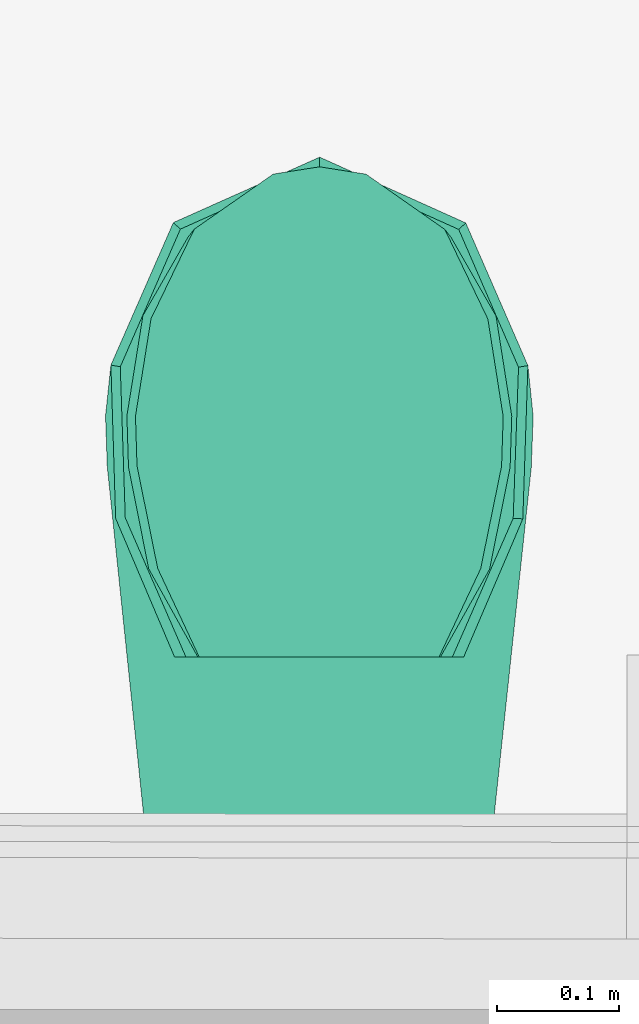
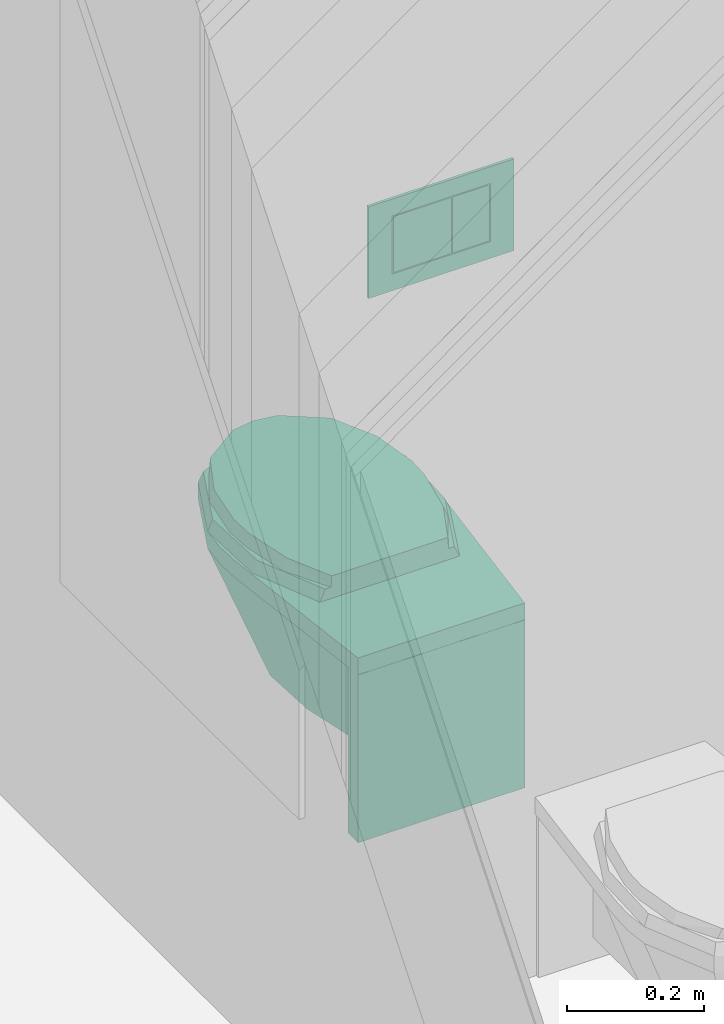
# One storey, part 245 of 301: 1 flow terminal.
"""IFC2X3 building model written with IfcOpenShell, lengths in millimetres."""

from ifc_helpers import new_model, entity, si_unit, converted_unit, derived_unit, money_unit, direction, frame, origin_with_axes, place, context, subcontext, project, spatial, faceted_brep, source, transform, mapped, type_object, element, save


model = new_model("IFC2X3")

# Units and contexts
model_context = context("Model", 3, precision=0.01, world=origin_with_axes(), true_north=direction((0.0, 1.0)))
body_context = subcontext(model_context, "Body", "Model", "MODEL_VIEW")
ifc_project = project(units=[si_unit("LENGTHUNIT", "METRE", prefix="MILLI"), si_unit("AREAUNIT", "SQUARE_METRE"), si_unit("VOLUMEUNIT", "CUBIC_METRE"), converted_unit("PLANEANGLEUNIT", "DEGREE", entity("IfcPlaneAngleMeasure", 0.0174532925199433), si_unit("PLANEANGLEUNIT", "RADIAN"), dimensions=[0, 0, 0, 0, 0, 0, 0]), money_unit("EUR"), converted_unit("TIMEUNIT", "Year", entity("IfcTimeMeasure", 31557600.0), si_unit("TIMEUNIT", "SECOND"), dimensions=[0, 0, 1, 0, 0, 0, 0]), si_unit("MASSUNIT", "GRAM", prefix="KILO"), si_unit("THERMODYNAMICTEMPERATUREUNIT", "DEGREE_CELSIUS"), si_unit("LUMINOUSINTENSITYUNIT", "LUMEN"), si_unit("ENERGYUNIT", "JOULE", prefix="MEGA"), derived_unit("THERMALCONDUCTANCEUNIT", [(si_unit("POWERUNIT", "WATT"), 1), (si_unit("LENGTHUNIT", "METRE"), -1), (si_unit("THERMODYNAMICTEMPERATUREUNIT", "KELVIN"), -1)]), derived_unit("SPECIFICHEATCAPACITYUNIT", [(si_unit("ENERGYUNIT", "JOULE"), 1), (si_unit("MASSUNIT", "GRAM", prefix="KILO"), -1), (si_unit("THERMODYNAMICTEMPERATUREUNIT", "KELVIN"), -1)]), derived_unit("MASSDENSITYUNIT", [(si_unit("MASSUNIT", "GRAM", prefix="KILO"), 1), (si_unit("VOLUMEUNIT", "CUBIC_METRE"), -1)])], contexts=[model_context])

# Site, building, storey
site_placement = place(None, frame((0.0, 0.0, 8650.0), z_axis=(0.0, 0.0, 1.0), x_axis=(1.0, 0.0, 0.0)))
site = spatial("IfcSite", under=ifc_project, at=site_placement, Name="43301:001:0844", CompositionType="ELEMENT")
building_placement = place(site_placement, origin_with_axes())
building = spatial("IfcBuilding", under=site, at=building_placement, Name="Kuressaare Ametikooli tuulikute mehaanikute õppekorpus", CompositionType="ELEMENT")
storey_placement = place(building_placement, origin_with_axes())
storey = spatial("IfcBuildingStorey", under=building, at=storey_placement, Name="1.korrus", CompositionType="ELEMENT", Elevation=0.0)

# Flow terminal
sanitary_terminal_type = type_object("IfcSanitaryTerminalType", Name="WC 27", PredefinedType="NOTDEFINED")
shared_shape = source(origin_with_axes(), body_context, "Body", "Brep", [
    faceted_brep([(-141.0283315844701, -29.31865370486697, 69.99999999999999), (-141.0283315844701, 0.4949050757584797, 69.99999999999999), (141.0283315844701, 0.4949050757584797, 69.99999999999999), (141.0283315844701, -29.31865370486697, 69.99999999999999), (-141.0283315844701, -29.31865370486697, 370.0), (-141.0283315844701, 0.4949050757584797, 370.0), (141.0283315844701, 0.4949050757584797, 370.0), (141.0283315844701, -29.31865370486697, 370.0)], [[[0, 1, 2, 3]], [[0, 4, 5, 1]], [[1, 5, 6, 2]], [[2, 6, 7, 3]], [[3, 7, 4, 0]], [[7, 6, 5, 4]]]),
    faceted_brep([(-101.7881776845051, -122.4661491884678, 370.0), (-164.8111927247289, -257.2969749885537, 370.0), (-170.4738719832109, -389.7973742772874, 370.0), (-119.554809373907, -506.3435444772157, 370.0), (0.0, -560.0, 370.0), (119.554809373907, -506.3435444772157, 370.0), (170.4738719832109, -389.7973742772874, 370.0), (164.8111927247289, -257.295981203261, 370.0), (101.7881776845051, -122.4661491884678, 370.0), (48.96817068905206, -87.43521908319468, 370.0), (48.96817068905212, -29.31865370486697, 370.0), (-48.96817068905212, -29.31865370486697, 370.0), (-48.96817068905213, -87.43521908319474, 370.0), (-63.65862189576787, -201.5126978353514, 370.0), (0.0, -179.8771255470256, 370.0), (63.65862189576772, -201.5126978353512, 370.0), (110.2599674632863, -260.6221805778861, 370.0), (127.3172437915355, -341.3672356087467, 370.0), (110.2599674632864, -422.1122906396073, 370.0), (63.65862189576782, -481.2217733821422, 370.0), (0.0, -502.8573456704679, 370.0), (-63.65862189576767, -481.2217733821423, 370.0), (-110.2599674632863, -422.1122906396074, 370.0), (-127.3172437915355, -341.3672356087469, 370.0), (-110.2599674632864, -260.6221805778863, 370.0), (-70.97348723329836, -270.8651255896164, 120.0), (-74.94382651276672, -372.4786779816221, 120.0), (-47.75865687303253, -440.0938417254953, 120.0), (0.0, -461.5278029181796, 120.0), (47.75865687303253, -440.0938417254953, 120.0), (74.94382651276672, -372.4786779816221, 120.0), (70.97348723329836, -270.8651255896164, 120.0), (48.96817068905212, -141.8100147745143, 135.0708656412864), (48.96817068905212, -132.9294031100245, 150.8349994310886), (48.96817068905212, -111.9632571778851, 220.0911688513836), (48.96817068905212, -168.852251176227, 120.0), (48.96817068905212, -29.31865370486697, 120.0), (-48.96817068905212, -29.31865370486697, 120.0), (-48.96817068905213, -168.852251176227, 120.0), (-48.96817068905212, -132.9294031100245, 150.8349994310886), (-24.48408534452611, -287.5770287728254, 170.0), (0.0, -279.2556548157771, 170.0), (24.48408534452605, -287.5770287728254, 170.0), (42.40767979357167, -310.3114452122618, 170.0), (48.96817068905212, -341.3672356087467, 170.0), (42.40767979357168, -372.4230260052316, 170.0), (24.48408534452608, -395.1574424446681, 170.0), (0.0, -403.4788164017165, 170.0), (-24.48408534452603, -395.1574424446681, 170.0), (-42.40767979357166, -372.4230260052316, 170.0), (-48.96817068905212, -341.3672356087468, 170.0), (-42.4076797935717, -310.311445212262, 170.0)], [[[0, 1, 2, 3, 4, 5, 6, 7, 8, 9, 10, 11, 12], [13, 14, 15, 16, 17, 18, 19, 20, 21, 22, 23, 24]], [[0, 25, 1]], [[1, 26, 2]], [[2, 27, 3]], [[3, 28, 4]], [[4, 29, 5]], [[5, 30, 6]], [[6, 31, 7]], [[8, 7, 32, 33]], [[8, 34, 9]], [[33, 32, 35, 36, 10, 9, 34]], [[10, 36, 37, 11]], [[12, 11, 37, 38, 39]], [[0, 12, 39]], [[13, 40, 41, 14]], [[14, 41, 42, 15]], [[15, 42, 43, 16]], [[16, 43, 44, 17]], [[17, 44, 45, 18]], [[18, 45, 46, 19]], [[19, 46, 47, 20]], [[20, 47, 48, 21]], [[21, 48, 49, 22]], [[22, 49, 50, 23]], [[23, 50, 51, 24]], [[24, 51, 40, 13]], [[25, 0, 39, 38]], [[25, 26, 1]], [[26, 27, 2]], [[27, 28, 3]], [[28, 29, 4]], [[29, 30, 5]], [[30, 31, 6]], [[7, 31, 35, 32]], [[8, 33, 34]], [[31, 30, 29, 28, 27, 26, 25, 38, 37, 36, 35]], [[40, 51, 50, 49, 48, 47, 46, 45, 44, 43, 42, 41]]]),
    faceted_brep([(174.8222455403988, -348.2949128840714, 370.0), (170.4738719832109, -389.7973742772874, 370.0), (119.554809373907, -506.3435444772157, 370.0), (0.0, -560.0, 370.0), (-119.554809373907, -506.3435444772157, 370.0), (-170.4738719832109, -389.7973742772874, 370.0), (-174.8222455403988, -348.2949128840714, 370.0), (-173.3473242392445, -306.5847503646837, 370.0), (-140.975445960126, 0.0, 370.0), (140.9734872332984, 0.0, 370.0), (173.3473242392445, -306.5847503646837, 370.0), (-83.6883665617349, -472.7512164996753, 370.0), (0.0, -510.3107353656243, 370.0), (83.6883665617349, -472.7512164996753, 370.0), (119.3317103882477, -391.1688973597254, 370.0), (122.3755718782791, -362.1171743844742, 370.0), (121.3431269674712, -332.9200606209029, 370.0), (98.68144106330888, -201.7886999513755, 370.0), (-98.68281217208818, -201.7886999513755, 370.0), (-121.3431269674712, -332.9200606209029, 370.0), (-122.3755718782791, -362.1171743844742, 370.0), (-119.3317103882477, -391.1688973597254, 370.0), (174.8222455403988, -348.2949128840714, 400.0), (170.4738719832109, -389.7973742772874, 400.0), (119.554809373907, -506.3435444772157, 400.0), (0.0, -560.0, 400.0), (-119.554809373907, -506.3435444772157, 400.0), (-170.4738719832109, -389.7973742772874, 400.0), (-174.8222455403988, -348.2949128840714, 400.0), (-173.3473242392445, -306.5847503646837, 400.0), (-140.975445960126, 0.0, 400.0), (140.9734872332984, 0.0, 400.0), (173.3473242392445, -306.5847503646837, 400.0), (0.0, -510.3107353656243, 400.0), (-83.6883665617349, -472.7512164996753, 400.0), (83.6883665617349, -472.7512164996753, 400.0), (119.3317103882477, -391.1688973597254, 400.0), (122.3755718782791, -362.1171743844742, 400.0), (121.3431269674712, -332.9200606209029, 400.0), (98.68144106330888, -201.7886999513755, 400.0), (-98.68281217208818, -201.7886999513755, 400.0), (-121.3431269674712, -332.9200606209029, 400.0), (-122.3755718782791, -362.1171743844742, 400.0), (-119.3317103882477, -391.1688973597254, 400.0)], [[[0, 1, 2, 3, 4, 5, 6, 7, 8, 9, 10], [11, 12, 13, 14, 15, 16, 17, 18, 19, 20, 21]], [[22, 23, 1, 0]], [[23, 24, 2, 1]], [[24, 25, 3, 2]], [[25, 26, 4, 3]], [[26, 27, 5, 4]], [[27, 28, 6, 5]], [[28, 29, 7, 6]], [[29, 30, 8, 7]], [[30, 31, 9, 8]], [[31, 32, 10, 9]], [[32, 22, 0, 10]], [[33, 12, 11, 34]], [[35, 13, 12, 33]], [[36, 14, 13, 35]], [[37, 15, 14, 36]], [[38, 16, 15, 37]], [[39, 17, 16, 38]], [[40, 18, 17, 39]], [[41, 19, 18, 40]], [[42, 20, 19, 41]], [[43, 21, 20, 42]], [[34, 11, 21, 43]], [[31, 30, 29, 28, 27, 26, 25, 24, 23, 22, 32], [40, 39, 38, 37, 36, 35, 33, 34, 43, 42, 41]]]),
    faceted_brep([(-170.4738719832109, -389.7973742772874, 400.0), (-166.4663168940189, -264.4263906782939, 400.0), (-118.2121021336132, -151.3163525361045, 400.0), (118.2121021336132, -151.3163525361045, 400.0), (166.4663168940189, -264.4263906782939, 400.0), (170.4738719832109, -389.7973742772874, 400.0), (119.554809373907, -506.3435444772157, 400.0), (0.0, -560.0, 400.0), (-119.554809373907, -506.3435444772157, 400.0), (-87.07689659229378, -411.9963613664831, 400.0), (-76.4888004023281, -438.0775703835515, 400.0), (-62.06856874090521, -459.4262123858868, 400.0), (-44.26109835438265, -474.4067566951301, 400.0), (-23.02579943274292, -483.9023013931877, 400.0), (0.0, -487.1544663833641, 400.0), (23.02579943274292, -483.9023013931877, 400.0), (44.26109835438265, -474.4067566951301, 400.0), (62.06856874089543, -459.4262123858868, 400.0), (76.4888004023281, -438.0775703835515, 400.0), (87.07689659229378, -411.9963613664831, 400.0), (94.51085540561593, -382.2763031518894, 400.0), (97.71606496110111, -351.7983255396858, 400.0), (96.61425296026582, -320.7429308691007, 400.0), (90.99294096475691, -286.7942733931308, 400.0), (81.3289539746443, -253.3384220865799, 400.0), (68.75412876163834, -223.4663237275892, 400.0), (-68.75448552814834, -223.4663237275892, 400.0), (-81.32886310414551, -253.3381075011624, 400.0), (-90.99294096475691, -286.7942733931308, 400.0), (-96.61425296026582, -320.7429308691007, 400.0), (-97.71606496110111, -351.7983255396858, 400.0), (-94.51085540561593, -382.2763031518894, 400.0), (-158.5902763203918, -264.9332211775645, 420.0000000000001), (-108.940468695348, -151.3163525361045, 420.0000000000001), (108.940468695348, -151.3163525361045, 420.0000000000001), (158.5902763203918, -264.9332211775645, 420.0000000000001), (162.8034977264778, -388.4070686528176, 420.0000000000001), (113.7912556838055, -501.0248055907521, 420.0000000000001), (0.0, -552.0944379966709, 420.0000000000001), (-113.7912556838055, -501.0248055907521, 420.0000000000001), (-162.8034977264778, -388.4070686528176, 420.0000000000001), (-76.4888004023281, -438.0775703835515, 420.0000000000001), (-87.07689659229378, -411.9963613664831, 420.0000000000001), (-62.06856874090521, -459.4262123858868, 420.0000000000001), (-44.26109835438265, -474.4067566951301, 420.0000000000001), (-23.02579943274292, -483.9023013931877, 420.0000000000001), (0.0, -487.1544663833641, 420.0000000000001), (23.02579943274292, -483.9023013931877, 420.0000000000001), (44.26109835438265, -474.4067566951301, 420.0000000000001), (62.06856874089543, -459.4262123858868, 420.0000000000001), (76.4888004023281, -438.0775703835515, 420.0000000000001), (87.07689659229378, -411.9963613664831, 420.0000000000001), (94.51085540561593, -382.2763031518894, 420.0000000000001), (97.71606496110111, -351.7983255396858, 420.0000000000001), (96.61425296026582, -320.7429308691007, 420.0000000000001), (90.99294096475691, -286.7942733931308, 420.0000000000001), (81.3289539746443, -253.3384220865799, 420.0000000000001), (68.75412876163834, -223.4663237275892, 420.0000000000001), (-68.75448552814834, -223.4663237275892, 420.0000000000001), (-81.32886310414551, -253.3381075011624, 420.0000000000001), (-90.99294096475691, -286.7942733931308, 420.0000000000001), (-96.61425296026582, -320.7429308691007, 420.0000000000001), (-97.71606496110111, -351.7983255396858, 420.0000000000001), (-94.51085540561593, -382.2763031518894, 420.0000000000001)], [[[0, 1, 2, 3, 4, 5, 6, 7, 8], [9, 10, 11, 12, 13, 14, 15, 16, 17, 18, 19, 20, 21, 22, 23, 24, 25, 26, 27, 28, 29, 30, 31]], [[0, 32, 1]], [[1, 33, 2]], [[3, 2, 33, 34]], [[3, 35, 4]], [[4, 36, 5]], [[5, 37, 6]], [[6, 38, 7]], [[7, 39, 8]], [[8, 40, 0]], [[41, 10, 9, 42]], [[43, 11, 10, 41]], [[44, 12, 11, 43]], [[45, 13, 12, 44]], [[46, 14, 13, 45]], [[47, 15, 14, 46]], [[48, 16, 15, 47]], [[49, 17, 16, 48]], [[50, 18, 17, 49]], [[51, 19, 18, 50]], [[52, 20, 19, 51]], [[53, 21, 20, 52]], [[54, 22, 21, 53]], [[55, 23, 22, 54]], [[56, 24, 23, 55]], [[57, 25, 24, 56]], [[58, 26, 25, 57]], [[59, 27, 26, 58]], [[60, 28, 27, 59]], [[61, 29, 28, 60]], [[62, 30, 29, 61]], [[63, 31, 30, 62]], [[42, 9, 31, 63]], [[0, 40, 32]], [[1, 32, 33]], [[34, 33, 32, 40, 39, 38, 37, 36, 35], [60, 59, 58, 57, 56, 55, 54, 53, 52, 51, 50, 49, 48, 47, 46, 45, 44, 43, 41, 42, 63, 62, 61]], [[3, 34, 35]], [[4, 35, 36]], [[5, 36, 37]], [[6, 37, 38]], [[7, 38, 39]], [[8, 39, 40]]]),
    faceted_brep([(107.5993284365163, -494.4181209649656, 420.0000000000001), (37.93662119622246, -546.1188070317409, 440.0000000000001), (39.85813221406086, -538.8154789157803, 420.0000000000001), (102.412130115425, -501.0248055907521, 440.0000000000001), (0.0, -552.0944379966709, 440.0000000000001), (0.0, -545.0932206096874, 420.0000000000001), (-39.85813221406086, -538.8154789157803, 420.0000000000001), (-107.5993284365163, -494.4181209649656, 420.0000000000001), (-144.3513116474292, -430.2603362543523, 420.0000000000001), (-157.3400209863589, -348.2949128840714, 420.0000000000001), (-156.01259181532, -306.5847503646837, 420.0000000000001), (-139.3844700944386, -223.3443004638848, 420.0000000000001), (-99.17339219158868, -151.3163525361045, 420.0000000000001), (99.17339219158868, -151.3163525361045, 420.0000000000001), (139.3844700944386, -223.3443004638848, 420.0000000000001), (156.01259181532, -306.5847503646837, 420.0000000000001), (157.3400209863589, -348.2949128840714, 420.0000000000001), (144.3504302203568, -430.2603362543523, 420.0000000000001), (137.6912486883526, -427.7848170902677, 440.0000000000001), (150.3317943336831, -348.0176467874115, 440.0000000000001), (149.0405036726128, -307.4274802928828, 440.0000000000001), (132.0192654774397, -223.5758524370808, 440.0000000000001), (98.04642182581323, -151.3163525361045, 440.0000000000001), (-98.04642182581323, -151.3163525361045, 440.0000000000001), (-132.0192654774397, -223.5758524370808, 440.0000000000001), (-149.0405036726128, -307.4274802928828, 440.0000000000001), (-150.3317943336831, -348.0176467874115, 440.0000000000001), (-137.6912486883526, -427.7848170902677, 440.0000000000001), (-102.412130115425, -501.0248055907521, 440.0000000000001), (-37.93662119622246, -546.1188070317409, 440.0000000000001)], [[[0, 1, 2]], [[0, 3, 1]], [[2, 1, 4]], [[0, 2, 5, 6, 7, 8, 9, 10, 11, 12, 13, 14, 15, 16, 17]], [[17, 3, 0]], [[3, 18, 19, 20, 21, 22, 23, 24, 25, 26, 27, 28, 29, 4, 1]], [[2, 4, 5]], [[5, 29, 6]], [[6, 28, 7]], [[7, 27, 8]], [[8, 26, 9]], [[9, 25, 10]], [[10, 24, 11]], [[11, 23, 12]], [[12, 23, 22, 13]], [[13, 21, 14]], [[14, 20, 15]], [[15, 19, 16]], [[16, 18, 17]], [[17, 18, 3]], [[16, 19, 18]], [[15, 20, 19]], [[14, 21, 20]], [[13, 22, 21]], [[11, 24, 23]], [[10, 25, 24]], [[9, 26, 25]], [[8, 27, 26]], [[7, 28, 27]], [[6, 29, 28]], [[5, 4, 29]]]),
    faceted_brep([(83.0, 0.0, 1036.0), (83.0, -5.0, 1036.0), (83.0, -4.999999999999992, 1170.0), (83.0, 0.0, 1170.0), (123.0, 0.0, 1036.0), (123.0, -5.0, 1036.0), (123.0, -4.999999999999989, 1200.0), (-123.0, -4.999999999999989, 1200.0), (-123.0, -5.0, 1036.0), (-83.0, -5.0, 1036.0), (-83.0, -4.999999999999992, 1170.0), (-83.0, 0.0, 1170.0), (-83.0, 0.0, 1036.0), (-123.0, 0.0, 1036.0), (-123.0, 0.0, 1200.0), (123.0, 0.0, 1200.0)], [[[0, 1, 2, 3]], [[4, 5, 1, 0]], [[1, 5, 6, 7, 8, 9, 10, 2]], [[3, 2, 10, 11]], [[0, 3, 11, 12, 13, 14, 15, 4]], [[15, 6, 5, 4]], [[14, 7, 6, 15]], [[13, 8, 7, 14]], [[12, 9, 8, 13]], [[11, 10, 9, 12]]]),
    faceted_brep([(-83.0, 0.0, 1036.0), (-83.0, -5.0, 1036.0), (-83.0, -4.999999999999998, 1066.0), (-83.0, 0.0, 1066.0), (83.0, 0.0, 1036.0), (83.0, -5.0, 1036.0), (83.0, -4.999999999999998, 1066.0), (83.0, 0.0, 1066.0)], [[[0, 1, 2, 3]], [[4, 5, 1, 0]], [[1, 5, 6, 2]], [[3, 2, 6, 7]], [[0, 3, 7, 4]], [[7, 6, 5, 4]]]),
    faceted_brep([(81.0, 0.0, 1068.0), (81.0, -4.999999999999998, 1068.0), (-17.0, -4.999999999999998, 1068.0), (-17.0, 0.0, 1068.0), (81.0, 0.0, 1168.0), (81.0, -4.999999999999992, 1168.0), (-17.0, -4.999999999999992, 1168.0), (-17.0, 0.0, 1168.0)], [[[0, 1, 2, 3]], [[4, 5, 1, 0]], [[1, 5, 6, 2]], [[3, 2, 6, 7]], [[0, 3, 7, 4]], [[7, 6, 5, 4]]]),
    faceted_brep([(-19.0, 0.0, 1168.0), (-19.0, -4.999999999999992, 1168.0), (-19.0, -4.999999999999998, 1068.0), (-19.0, 0.0, 1068.0), (-81.0, 0.0, 1168.0), (-81.0, -4.999999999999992, 1168.0), (-81.0, -4.999999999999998, 1068.0), (-81.0, 0.0, 1068.0)], [[[0, 1, 2, 3]], [[4, 5, 1, 0]], [[1, 5, 6, 2]], [[3, 2, 6, 7]], [[0, 3, 7, 4]], [[7, 6, 5, 4]]]),
])
flow_terminal_placement = place(storey_placement, frame((99527.94031560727, 30324.9728200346, -80.0), z_axis=(0.0, 0.0, 1.0), x_axis=(-0.999999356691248, 0.001134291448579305, 0.0)))
element("IfcFlowTerminal", 1, at=flow_terminal_placement, inside=storey, type_object=sanitary_terminal_type, Name="WC1", context=body_context, shape_type="MappedRepresentation", body=[
    mapped(shared_shape, transform((0.0, 0.0, 0.0))),
])

save(model, "model.ifc")
